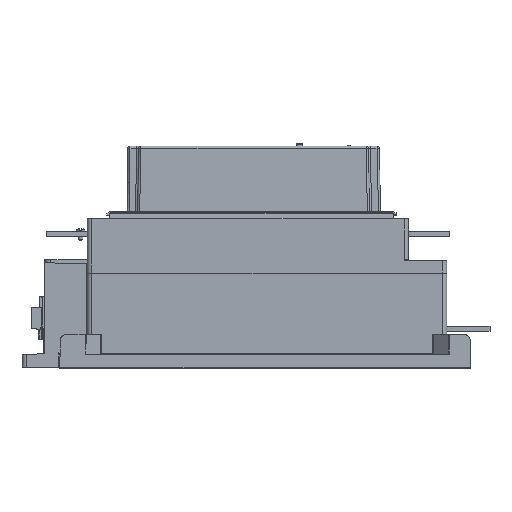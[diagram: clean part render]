
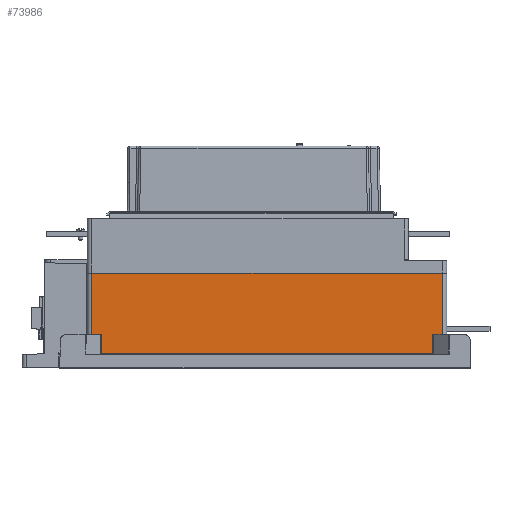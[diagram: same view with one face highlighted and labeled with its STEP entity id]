
A CAD part, top view. The second image highlights one B-rep face of the part: STEP entity #73986.
In plain terms, the highlighted planar face has unit normal (0, 0, 1).
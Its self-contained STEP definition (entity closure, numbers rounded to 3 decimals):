
#20430=DIRECTION('',(0.,-1.,0.));
#20431=VECTOR('',#20430,2.956);
#20432=CARTESIAN_POINT('',(-6.644,3.366,3.28));
#20433=LINE('',#20432,#20431);
#20434=DIRECTION('',(-1.,0.,0.));
#20435=VECTOR('',#20434,12.359);
#20436=CARTESIAN_POINT('',(6.096,0.354,3.28));
#20437=LINE('',#20436,#20435);
#20438=DIRECTION('',(-1.,0.,0.));
#20439=VECTOR('',#20438,0.278);
#20440=CARTESIAN_POINT('',(-6.263,1.083,3.28));
#20441=LINE('',#20440,#20439);
#20442=DIRECTION('',(1.,0.,0.));
#20443=VECTOR('',#20442,13.1);
#20444=CARTESIAN_POINT('',(-6.644,3.366,3.28));
#20445=LINE('',#20444,#20443);
#20446=DIRECTION('',(-1.,0.,0.));
#20447=VECTOR('',#20446,0.278);
#20448=CARTESIAN_POINT('',(6.374,1.083,3.28));
#20449=LINE('',#20448,#20447);
#20461=DIRECTION('',(0.,-1.,0.));
#20462=VECTOR('',#20461,0.729);
#20463=CARTESIAN_POINT('',(-6.263,1.083,3.28));
#20464=LINE('',#20463,#20462);
#20593=DIRECTION('',(0.,1.,0.));
#20594=VECTOR('',#20593,0.729);
#20595=CARTESIAN_POINT('',(6.096,0.354,3.28));
#20596=LINE('',#20595,#20594);
#20731=DIRECTION('',(0.,-1.,0.));
#20732=VECTOR('',#20731,0.67);
#20733=CARTESIAN_POINT('',(6.374,1.083,3.28));
#20734=LINE('',#20733,#20732);
#20735=DIRECTION('',(1.,-0.007,0.));
#20736=VECTOR('',#20735,0.082);
#20737=CARTESIAN_POINT('',(6.374,0.412,
3.28));
#20738=LINE('',#20737,#20736);
#20771=DIRECTION('',(0.,1.,0.));
#20772=VECTOR('',#20771,2.954);
#20773=CARTESIAN_POINT('',(6.457,0.412,
3.28));
#20774=LINE('',#20773,#20772);
#21098=DIRECTION('',(1.,0.007,0.));
#21099=VECTOR('',#21098,0.102);
#21100=CARTESIAN_POINT('',(-6.644,0.41,
3.28));
#21101=LINE('',#21100,#21099);
#21127=DIRECTION('',(0.,1.,0.));
#21128=VECTOR('',#21127,0.672);
#21129=CARTESIAN_POINT('',(-6.542,0.411,
3.28));
#21130=LINE('',#21129,#21128);
#44078=CARTESIAN_POINT('',(6.096,0.354,3.28));
#44079=CARTESIAN_POINT('',(-6.263,0.354,3.28));
#44080=VERTEX_POINT('',#44078);
#44081=VERTEX_POINT('',#44079);
#44082=CARTESIAN_POINT('',(-6.644,3.366,3.28));
#44083=CARTESIAN_POINT('',(6.457,3.366,3.28));
#44084=VERTEX_POINT('',#44082);
#44085=VERTEX_POINT('',#44083);
#49204=CARTESIAN_POINT('',(6.096,1.083,3.28));
#49205=VERTEX_POINT('',#49204);
#49206=CARTESIAN_POINT('',(6.374,1.083,3.28));
#49207=VERTEX_POINT('',#49206);
#49366=CARTESIAN_POINT('',(-6.542,1.083,3.28));
#49367=VERTEX_POINT('',#49366);
#49368=CARTESIAN_POINT('',(-6.263,1.083,3.28));
#49369=VERTEX_POINT('',#49368);
#51413=CARTESIAN_POINT('',(-6.542,0.411,
3.28));
#51414=VERTEX_POINT('',#51413);
#51415=CARTESIAN_POINT('',(-6.644,0.41,
3.28));
#51416=VERTEX_POINT('',#51415);
#51417=CARTESIAN_POINT('',(6.457,0.412,
3.28));
#51418=VERTEX_POINT('',#51417);
#51419=CARTESIAN_POINT('',(6.374,0.412,
3.28));
#51420=VERTEX_POINT('',#51419);
#73956=CARTESIAN_POINT('',(0.,0.,3.28));
#73957=DIRECTION('',(0.,0.,1.));
#73958=DIRECTION('',(1.,0.,0.));
#73959=AXIS2_PLACEMENT_3D('',#73956,#73957,#73958);
#73960=PLANE('',#73959);
#73962=ORIENTED_EDGE('',*,*,#73961,.T.);
#73964=ORIENTED_EDGE('',*,*,#73963,.F.);
#73966=ORIENTED_EDGE('',*,*,#73965,.T.);
#73968=ORIENTED_EDGE('',*,*,#73967,.F.);
#73970=ORIENTED_EDGE('',*,*,#73969,.F.);
#73971=ORIENTED_EDGE('',*,*,#73951,.F.);
#73973=ORIENTED_EDGE('',*,*,#73972,.T.);
#73975=ORIENTED_EDGE('',*,*,#73974,.F.);
#73977=ORIENTED_EDGE('',*,*,#73976,.F.);
#73979=ORIENTED_EDGE('',*,*,#73978,.F.);
#73981=ORIENTED_EDGE('',*,*,#73980,.T.);
#73983=ORIENTED_EDGE('',*,*,#73982,.F.);
#73984=EDGE_LOOP('',(#73962,#73964,#73966,#73968,#73970,#73971,#73973,#73975,
#73977,#73979,#73981,#73983));
#73985=FACE_OUTER_BOUND('',#73984,.F.);
#73986=ADVANCED_FACE('',(#73985),#73960,.T.);
#73951=EDGE_CURVE('',#44084,#51416,#20433,.T.);
#73961=EDGE_CURVE('',#44080,#44081,#20437,.T.);
#73963=EDGE_CURVE('',#49369,#44081,#20464,.T.);
#73965=EDGE_CURVE('',#49369,#49367,#20441,.T.);
#73967=EDGE_CURVE('',#51414,#49367,#21130,.T.);
#73969=EDGE_CURVE('',#51416,#51414,#21101,.T.);
#73972=EDGE_CURVE('',#44084,#44085,#20445,.T.);
#73974=EDGE_CURVE('',#51418,#44085,#20774,.T.);
#73976=EDGE_CURVE('',#51420,#51418,#20738,.T.);
#73978=EDGE_CURVE('',#49207,#51420,#20734,.T.);
#73980=EDGE_CURVE('',#49207,#49205,#20449,.T.);
#73982=EDGE_CURVE('',#44080,#49205,#20596,.T.);
